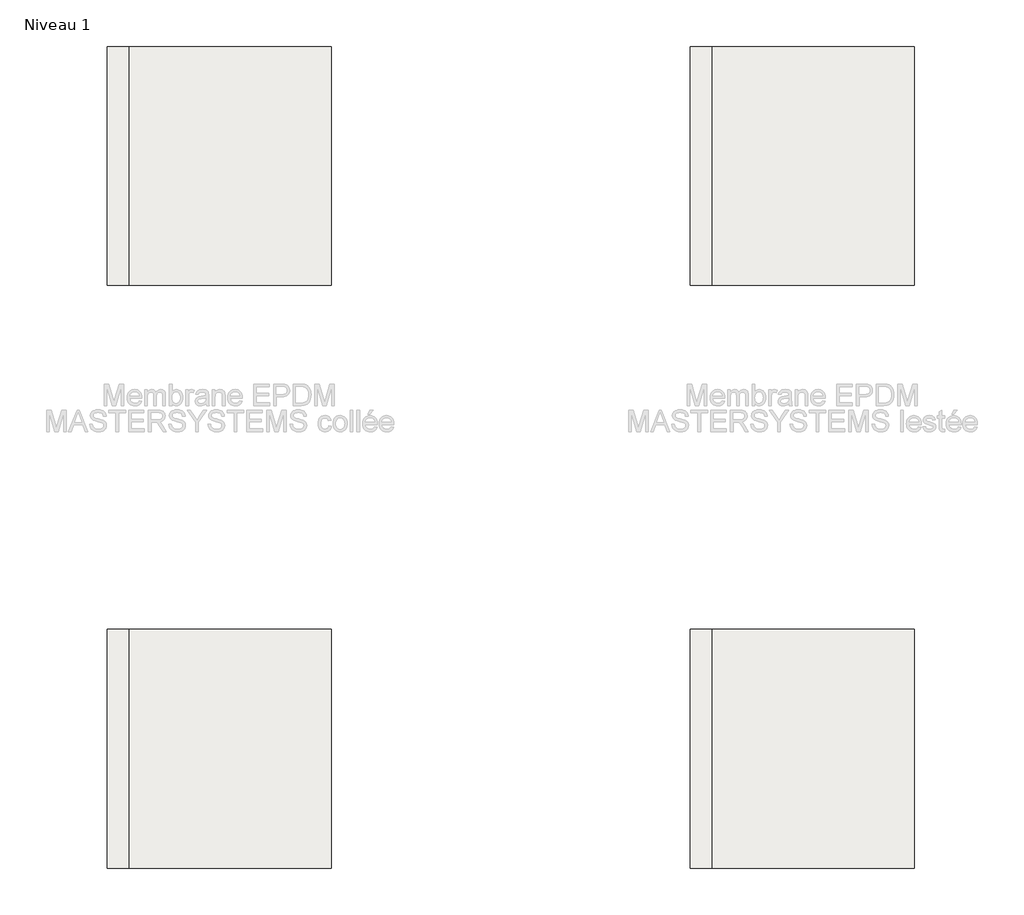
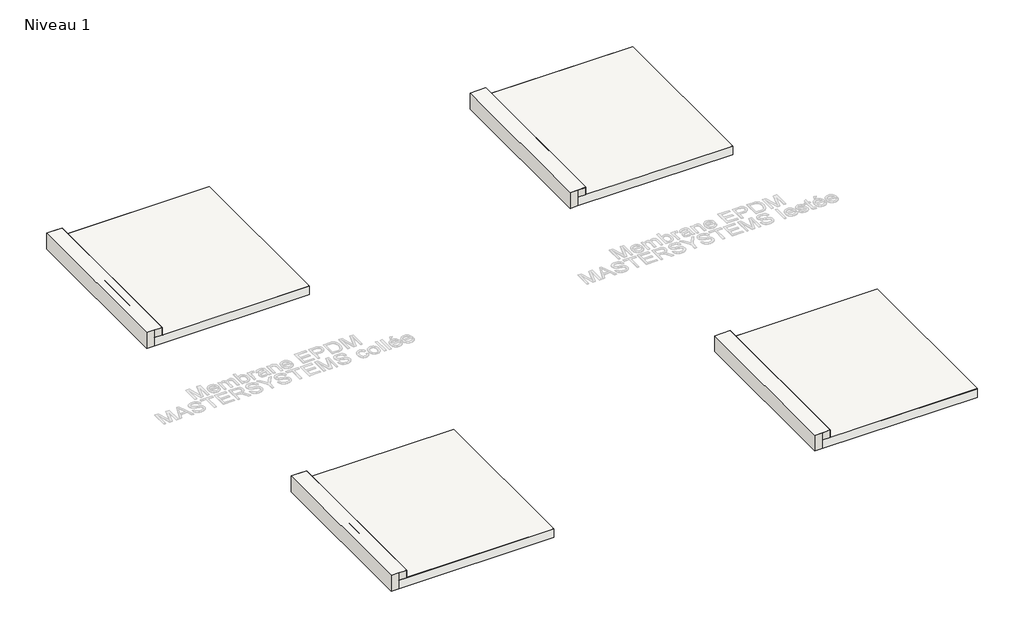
# One storey, part 1 of 3: 12 roofs, 12 walls.
"""IFC4 building model written with IfcOpenShell, lengths in millimetres."""

from ifc_helpers import new_model, si_unit, frame, origin, origin_with_axes, place, context, project, spatial, polyline, outline, extrude, element, save

model = new_model("IFC4")

# Units and contexts
model_context = context("Model", 3, world=origin())
ifc_project = project(units=[si_unit("LENGTHUNIT", "METRE", prefix="MILLI")], contexts=[model_context])

# Site, building, storey
site = spatial("IfcSite", under=ifc_project)
building = spatial("IfcBuilding", under=site)
storey = spatial("IfcBuildingStorey", under=building, Name="Niveau 1", Elevation=0.0)

# Roofs
placement = place(None, origin())
element("IfcRoof", 1, ObjectType="Membrane MASTERSYSTEMS EPDM lestée standard", at=placement, inside=storey, context=model_context, shape_type="SweptSolid", body=[
    extrude(outline(polyline([(23196.9860757, 21211.4879507), (23196.9860757, 27925.9494892), (28896.9860757, 27925.9494892), (28896.9860757, 21211.4879507), (23196.9860757, 21211.4879507)])), origin_with_axes(), (0.0, 0.0, 1.0), 3.0),
])
element("IfcRoof", 2, ObjectType="Membrane MASTERSYSTEMS EPDM collée-Relevés et acrotères", at=placement, inside=storey, context=model_context, shape_type="SweptSolid", body=[
    extrude(outline(polyline([(22596.9860757, 21211.4879507), (22596.9860757, 27925.9494892), (23200.2860757, 27925.9494892), (23200.2860757, 21211.4879507), (22596.9860757, 21211.4879507)])), frame((0.0, 0.0, 300.0), z_axis=(0.0, 0.0, 1.0), x_axis=(1.0, 0.0, 0.0)), (0.0, 0.0, 1.0), 3.3),
])
element("IfcRoof", 3, ObjectType="Membrane MASTERSYSTEMS EPDM collée standard", at=placement, inside=storey, context=model_context, shape_type="SweptSolid", body=[
    extrude(outline(polyline([(6801.7860757, 21211.4879507), (6801.7860757, 27925.9494892), (12501.7860757, 27925.9494892), (12501.7860757, 21211.4879507), (6801.7860757, 21211.4879507)])), origin_with_axes(), (0.0, 0.0, 1.0), 3.3),
])
element("IfcRoof", 4, ObjectType="Membrane MASTERSYSTEMS EPDM collée-Relevés et acrotères", at=placement, inside=storey, context=model_context, shape_type="SweptSolid", body=[
    extrude(outline(polyline([(6201.7860757, 21211.4879507), (6201.7860757, 27925.9494892), (6805.0860757, 27925.9494892), (6805.0860757, 21211.4879507), (6201.7860757, 21211.4879507)])), frame((0.0, 0.0, 300.0), z_axis=(0.0, 0.0, 1.0), x_axis=(1.0, 0.0, 0.0)), (0.0, 0.0, 1.0), 3.3),
])
element("IfcRoof", 5, ObjectType="Membrane MASTERSYSTEMS EPDM collée pre-tape", at=placement, inside=storey, context=model_context, shape_type="SweptSolid", body=[
    extrude(outline(polyline([(6801.7860757, 4816.2879507), (6801.7860757, 11530.7494892), (12501.7860757, 11530.7494892), (12501.7860757, 4816.2879507), (6801.7860757, 4816.2879507)])), origin_with_axes(), (0.0, 0.0, 1.0), 3.3),
])
element("IfcRoof", 6, ObjectType="Membrane MASTERSYSTEMS EPDM collée-Relevés et acrotères", at=placement, inside=storey, context=model_context, shape_type="SweptSolid", body=[
    extrude(outline(polyline([(6201.7860757, 4816.2879507), (6201.7860757, 11530.7494892), (6805.0860757, 11530.7494892), (6805.0860757, 4816.2879507), (6201.7860757, 4816.2879507)])), frame((0.0, 0.0, 300.0), z_axis=(0.0, 0.0, 1.0), x_axis=(1.0, 0.0, 0.0)), (0.0, 0.0, 1.0), 3.3),
])
element("IfcRoof", 7, ObjectType="Membrane MASTERSYSTEMS EPDM lestée pre-tape", at=placement, inside=storey, context=model_context, shape_type="SweptSolid", body=[
    extrude(outline(polyline([(23196.9860757, 4816.2879507), (23196.9860757, 11530.7494892), (28896.9860757, 11530.7494892), (28896.9860757, 4816.2879507), (23196.9860757, 4816.2879507)])), origin_with_axes(), (0.0, 0.0, 1.0), 3.0),
])
element("IfcRoof", 8, ObjectType="Membrane MASTERSYSTEMS EPDM collée-Relevés et acrotères", at=placement, inside=storey, context=model_context, shape_type="SweptSolid", body=[
    extrude(outline(polyline([(22596.9860757, 4816.2879507), (22596.9860757, 11530.7494892), (23200.2860757, 11530.7494892), (23200.2860757, 4816.2879507), (22596.9860757, 4816.2879507)])), frame((0.0, 0.0, 300.0), z_axis=(0.0, 0.0, 1.0), x_axis=(1.0, 0.0, 0.0)), (0.0, 0.0, 1.0), 3.3),
])
element("IfcRoof", 9, ObjectType="Toit 1", at=placement, inside=storey, context=model_context, shape_type="SweptSolid", body=[
    extrude(outline(polyline([(22896.9860757, 27925.9494892), (28896.9860757, 27925.9494892), (28896.9860757, 21211.4879507), (22896.9860757, 21211.4879507), (22896.9860757, 27925.9494892)])), frame((0.0, 0.0, -350.8), z_axis=(0.0, 0.0, 1.0), x_axis=(1.0, 0.0, 0.0)), (0.0, 0.0, 1.0), 350.8),
])
element("IfcRoof", 10, ObjectType="Toit 1", at=placement, inside=storey, context=model_context, shape_type="SweptSolid", body=[
    extrude(outline(polyline([(6501.7860757, 27925.9494892), (12501.7860757, 27925.9494892), (12501.7860757, 21211.4879507), (6501.7860757, 21211.4879507), (6501.7860757, 27925.9494892)])), frame((0.0, 0.0, -350.8), z_axis=(0.0, 0.0, 1.0), x_axis=(1.0, 0.0, 0.0)), (0.0, 0.0, 1.0), 350.8),
])
element("IfcRoof", 11, ObjectType="Toit 1", at=placement, inside=storey, context=model_context, shape_type="SweptSolid", body=[
    extrude(outline(polyline([(6501.7860757, 11530.7494892), (12501.7860757, 11530.7494892), (12501.7860757, 4816.2879507), (6501.7860757, 4816.2879507), (6501.7860757, 11530.7494892)])), frame((0.0, 0.0, -350.8), z_axis=(0.0, 0.0, 1.0), x_axis=(1.0, 0.0, 0.0)), (0.0, 0.0, 1.0), 350.8),
])
element("IfcRoof", 12, ObjectType="Toit 1", at=placement, inside=storey, context=model_context, shape_type="SweptSolid", body=[
    extrude(outline(polyline([(22896.9860757, 11530.7494892), (28896.9860757, 11530.7494892), (28896.9860757, 4816.2879507), (22896.9860757, 4816.2879507), (22896.9860757, 11530.7494892)])), frame((0.0, 0.0, -350.8), z_axis=(0.0, 0.0, 1.0), x_axis=(1.0, 0.0, 0.0)), (0.0, 0.0, 1.0), 350.8),
])

# Walls
element("IfcWall", 13, ObjectType="Membrane MASTERSYSTEMS EPDM collée-Relevés et acrotères", at=placement, inside=storey, context=model_context, shape_type="SweptSolid", body=[
    extrude(outline(polyline([(23200.2860757, 27925.9494892), (23200.2860757, 21211.4879507), (23196.9860757, 21211.4879507), (23196.9860757, 27925.9494892), (23200.2860757, 27925.9494892)])), frame((0.0, 0.0, 3.0), z_axis=(0.0, 0.0, 1.0), x_axis=(1.0, 0.0, 0.0)), (0.0, 0.0, 1.0), 297.0),
])
element("IfcWall", 14, ObjectType="Membrane MASTERSYSTEMS EPDM collée-Relevés et acrotères", at=placement, inside=storey, context=model_context, shape_type="SweptSolid", body=[
    extrude(outline(polyline([(6805.0860757, 27925.9494892), (6805.0860757, 21211.4879507), (6801.7860757, 21211.4879507), (6801.7860757, 27925.9494892), (6805.0860757, 27925.9494892)])), frame((0.0, 0.0, 3.3), z_axis=(0.0, 0.0, 1.0), x_axis=(1.0, 0.0, 0.0)), (0.0, 0.0, 1.0), 296.7),
])
element("IfcWall", 15, ObjectType="Membrane MASTERSYSTEMS EPDM collée-Relevés et acrotères", at=placement, inside=storey, context=model_context, shape_type="SweptSolid", body=[
    extrude(outline(polyline([(6805.0860757, 11530.7494892), (6805.0860757, 4816.2879507), (6801.7860757, 4816.2879507), (6801.7860757, 11530.7494892), (6805.0860757, 11530.7494892)])), frame((0.0, 0.0, 3.3), z_axis=(0.0, 0.0, 1.0), x_axis=(1.0, 0.0, 0.0)), (0.0, 0.0, 1.0), 296.7),
])
element("IfcWall", 16, ObjectType="Membrane MASTERSYSTEMS EPDM collée-Relevés et acrotères", at=placement, inside=storey, context=model_context, shape_type="SweptSolid", body=[
    extrude(outline(polyline([(23200.2860757, 11530.7494892), (23200.2860757, 4816.2879507), (23196.9860757, 4816.2879507), (23196.9860757, 11530.7494892), (23200.2860757, 11530.7494892)])), frame((0.0, 0.0, 3.0), z_axis=(0.0, 0.0, 1.0), x_axis=(1.0, 0.0, 0.0)), (0.0, 0.0, 1.0), 297.0),
])
element("IfcWall", 17, ObjectType="Mur 1", at=placement, inside=storey, context=model_context, shape_type="SweptSolid", body=[
    extrude(outline(polyline([(22596.9860757, 21211.4879507), (22596.9860757, 27925.9494892), (22896.9860757, 27925.9494892), (22896.9860757, 21211.4879507), (22596.9860757, 21211.4879507)])), frame((0.0, 0.0, -350.8), z_axis=(0.0, 0.0, 1.0), x_axis=(1.0, 0.0, 0.0)), (0.0, 0.0, 1.0), 650.8),
])
element("IfcWall", 18, ObjectType="Mur 1", at=placement, inside=storey, context=model_context, shape_type="SweptSolid", body=[
    extrude(outline(polyline([(22896.9860757, 21211.4879507), (22896.9860757, 27925.9494892), (23196.9860757, 27925.9494892), (23196.9860757, 21211.4879507), (22896.9860757, 21211.4879507)])), origin_with_axes(), (0.0, 0.0, 1.0), 300.0),
])
element("IfcWall", 19, ObjectType="Mur 1", at=placement, inside=storey, context=model_context, shape_type="SweptSolid", body=[
    extrude(outline(polyline([(6201.7860757, 21211.4879507), (6201.7860757, 27925.9494892), (6501.7860757, 27925.9494892), (6501.7860757, 21211.4879507), (6201.7860757, 21211.4879507)])), frame((0.0, 0.0, -350.8), z_axis=(0.0, 0.0, 1.0), x_axis=(1.0, 0.0, 0.0)), (0.0, 0.0, 1.0), 650.8),
])
element("IfcWall", 20, ObjectType="Mur 1", at=placement, inside=storey, context=model_context, shape_type="SweptSolid", body=[
    extrude(outline(polyline([(6501.7860757, 21211.4879507), (6501.7860757, 27925.9494892), (6801.7860757, 27925.9494892), (6801.7860757, 21211.4879507), (6501.7860757, 21211.4879507)])), origin_with_axes(), (0.0, 0.0, 1.0), 300.0),
])
element("IfcWall", 21, ObjectType="Mur 1", at=placement, inside=storey, context=model_context, shape_type="SweptSolid", body=[
    extrude(outline(polyline([(6201.7860757, 4816.2879507), (6201.7860757, 11530.7494892), (6501.7860757, 11530.7494892), (6501.7860757, 4816.2879507), (6201.7860757, 4816.2879507)])), frame((0.0, 0.0, -350.8), z_axis=(0.0, 0.0, 1.0), x_axis=(1.0, 0.0, 0.0)), (0.0, 0.0, 1.0), 650.8),
])
element("IfcWall", 22, ObjectType="Mur 1", at=placement, inside=storey, context=model_context, shape_type="SweptSolid", body=[
    extrude(outline(polyline([(6501.7860757, 4816.2879507), (6501.7860757, 11530.7494892), (6801.7860757, 11530.7494892), (6801.7860757, 4816.2879507), (6501.7860757, 4816.2879507)])), origin_with_axes(), (0.0, 0.0, 1.0), 300.0),
])
element("IfcWall", 23, ObjectType="Mur 1", at=placement, inside=storey, context=model_context, shape_type="SweptSolid", body=[
    extrude(outline(polyline([(22596.9860757, 4816.2879507), (22596.9860757, 11530.7494892), (22896.9860757, 11530.7494892), (22896.9860757, 4816.2879507), (22596.9860757, 4816.2879507)])), frame((0.0, 0.0, -350.8), z_axis=(0.0, 0.0, 1.0), x_axis=(1.0, 0.0, 0.0)), (0.0, 0.0, 1.0), 650.8),
])
element("IfcWall", 24, ObjectType="Mur 1", at=placement, inside=storey, context=model_context, shape_type="SweptSolid", body=[
    extrude(outline(polyline([(22896.9860757, 4816.2879507), (22896.9860757, 11530.7494892), (23196.9860757, 11530.7494892), (23196.9860757, 4816.2879507), (22896.9860757, 4816.2879507)])), origin_with_axes(), (0.0, 0.0, 1.0), 300.0),
])

save(model, "model.ifc")
